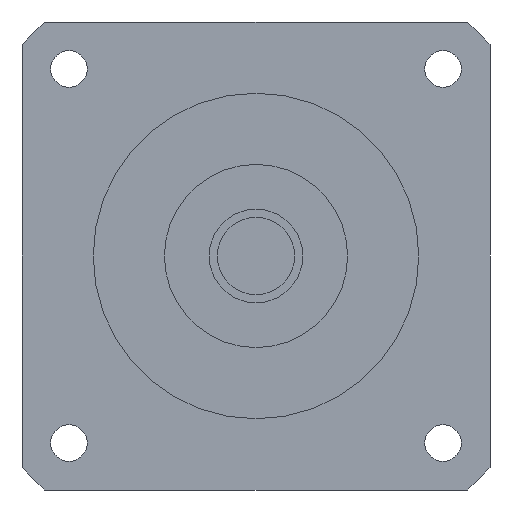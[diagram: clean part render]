
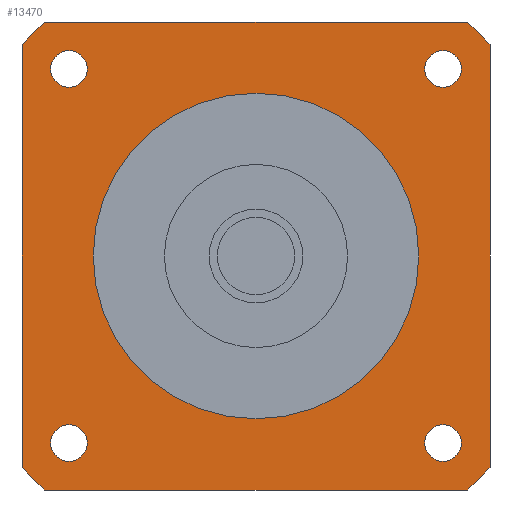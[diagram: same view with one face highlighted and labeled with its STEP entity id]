
A CAD part, left-side view. The second image highlights one B-rep face of the part: STEP entity #13470.
In plain terms, the highlighted planar face has unit normal (-1, 0, 0) as drawn and (0, 0, -1) by its records, which use the part's own axes.
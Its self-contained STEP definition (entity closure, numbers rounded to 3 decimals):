
#8890=CARTESIAN_POINT('',(57.5,-51.962,-43.2));
#8900=VERTEX_POINT('',#8890);
#8930=CARTESIAN_POINT('',(0.,0.,
-43.2));
#8940=DIRECTION('',(0.,0.,-1.));
#8950=DIRECTION('',(-1.,0.,0.));
#8960=AXIS2_PLACEMENT_3D('',#8930,#8940,#8950);
#8970=CIRCLE('',#8960,77.5);
#8980=CARTESIAN_POINT('',(51.962,-57.5,-43.2));
#8990=VERTEX_POINT('',#8980);
#9000=EDGE_CURVE('',#8900,#8990,#8970,.T.);
#9310=CARTESIAN_POINT('',(-51.962,57.5,-43.2));
#9320=VERTEX_POINT('',#9310);
#9480=CARTESIAN_POINT('',(-57.5,51.962,-43.2));
#9490=VERTEX_POINT('',#9480);
#9520=CARTESIAN_POINT('',(0.,0.,
-43.2));
#9530=DIRECTION('',(0.,0.,-1.));
#9540=DIRECTION('',(-1.,0.,0.));
#9550=AXIS2_PLACEMENT_3D('',#9520,#9530,#9540);
#9560=CIRCLE('',#9550,77.5);
#9570=EDGE_CURVE('',#9490,#9320,#9560,.T.);
#12040=CARTESIAN_POINT('',(50.462,-45.962,-43.2));
#12050=VERTEX_POINT('',#12040);
#12080=CARTESIAN_POINT('',(45.962,-45.962,-43.2));
#12090=DIRECTION('',(0.,0.,-1.));
#12100=DIRECTION('',(1.,0.,0.));
#12110=AXIS2_PLACEMENT_3D('',#12080,#12090,#12100);
#12120=CIRCLE('',#12110,4.5);
#12130=CARTESIAN_POINT('',(41.462,-45.962,-43.2));
#12140=VERTEX_POINT('',#12130);
#12150=EDGE_CURVE('',#12140,#12050,#12120,.T.);
#12270=CARTESIAN_POINT('',(0.,0.,
-43.2));
#12280=DIRECTION('',(0.,0.,-1.));
#12290=DIRECTION('',(1.,0.,0.));
#12300=AXIS2_PLACEMENT_3D('',#12270,#12280,#12290);
#12310=PLANE('',#12300);
#12320=CARTESIAN_POINT('',(45.962,45.962,-43.2));
#12330=DIRECTION('',(0.,0.,-1.));
#12340=DIRECTION('',(1.,0.,0.));
#12350=AXIS2_PLACEMENT_3D('',#12320,#12330,#12340);
#12360=CIRCLE('',#12350,4.5);
#12370=CARTESIAN_POINT('',(50.462,45.962,-43.2));
#12380=VERTEX_POINT('',#12370);
#12390=CARTESIAN_POINT('',(41.462,45.962,-43.2));
#12400=VERTEX_POINT('',#12390);
#12410=EDGE_CURVE('',#12380,#12400,#12360,.T.);
#12420=ORIENTED_EDGE('',*,*,#12410,.F.);
#12430=EDGE_CURVE('',#12400,#12380,#12360,.T.);
#12440=ORIENTED_EDGE('',*,*,#12430,.F.);
#12450=EDGE_LOOP('',(#12440,#12420));
#12460=FACE_BOUND('',#12450,.T.);
#12470=CARTESIAN_POINT('',(-45.962,45.962,-43.2));
#12480=DIRECTION('',(0.,0.,-1.));
#12490=DIRECTION('',(1.,0.,0.));
#12500=AXIS2_PLACEMENT_3D('',#12470,#12480,#12490);
#12510=CIRCLE('',#12500,4.5);
#12520=CARTESIAN_POINT('',(-41.462,45.962,-43.2));
#12530=VERTEX_POINT('',#12520);
#12540=CARTESIAN_POINT('',(-50.462,45.962,-43.2));
#12550=VERTEX_POINT('',#12540);
#12560=EDGE_CURVE('',#12530,#12550,#12510,.T.);
#12570=ORIENTED_EDGE('',*,*,#12560,.F.);
#12580=EDGE_CURVE('',#12550,#12530,#12510,.T.);
#12590=ORIENTED_EDGE('',*,*,#12580,.F.);
#12600=EDGE_LOOP('',(#12590,#12570));
#12610=FACE_BOUND('',#12600,.T.);
#12620=CARTESIAN_POINT('',(0.,0.,
-43.2));
#12630=DIRECTION('',(0.,0.,1.));
#12640=DIRECTION('',(1.,0.,0.));
#12650=AXIS2_PLACEMENT_3D('',#12620,#12630,#12640);
#12660=CIRCLE('',#12650,40.);
#12670=CARTESIAN_POINT('',(40.,0.,-43.2));
#12680=VERTEX_POINT('',#12670);
#12690=CARTESIAN_POINT('',(-40.,0.,-43.2));
#12700=VERTEX_POINT('',#12690);
#12710=EDGE_CURVE('',#12680,#12700,#12660,.T.);
#12720=ORIENTED_EDGE('',*,*,#12710,.T.);
#12730=EDGE_CURVE('',#12700,#12680,#12660,.T.);
#12740=ORIENTED_EDGE('',*,*,#12730,.T.);
#12750=EDGE_LOOP('',(#12740,#12720));
#12760=FACE_BOUND('',#12750,.T.);
#12770=CARTESIAN_POINT('',(-45.962,-45.962,-43.2));
#12780=DIRECTION('',(0.,0.,-1.));
#12790=DIRECTION('',(1.,0.,0.));
#12800=AXIS2_PLACEMENT_3D('',#12770,#12780,#12790);
#12810=CIRCLE('',#12800,4.5);
#12820=CARTESIAN_POINT('',(-41.462,-45.962,-43.2));
#12830=VERTEX_POINT('',#12820);
#12840=CARTESIAN_POINT('',(-50.462,-45.962,-43.2));
#12850=VERTEX_POINT('',#12840);
#12860=EDGE_CURVE('',#12830,#12850,#12810,.T.);
#12870=ORIENTED_EDGE('',*,*,#12860,.F.);
#12880=EDGE_CURVE('',#12850,#12830,#12810,.T.);
#12890=ORIENTED_EDGE('',*,*,#12880,.F.);
#12900=EDGE_LOOP('',(#12890,#12870));
#12910=FACE_BOUND('',#12900,.T.);
#12920=EDGE_CURVE('',#12050,#12140,#12120,.T.);
#12930=ORIENTED_EDGE('',*,*,#12920,.F.);
#12940=ORIENTED_EDGE('',*,*,#12150,.F.);
#12950=EDGE_LOOP('',(#12940,#12930));
#12960=FACE_BOUND('',#12950,.T.);
#12970=CARTESIAN_POINT('',(57.5,-57.5,-43.2));
#12980=DIRECTION('',(-1.,0.,0.));
#12990=VECTOR('',#12980,1000.);
#13000=LINE('',#12970,#12990);
#13010=CARTESIAN_POINT('',(-51.962,-57.5,-43.2));
#13020=VERTEX_POINT('',#13010);
#13030=EDGE_CURVE('',#8990,#13020,#13000,.T.);
#13040=ORIENTED_EDGE('',*,*,#13030,.T.);
#13050=ORIENTED_EDGE('',*,*,#9000,.T.);
#13060=CARTESIAN_POINT('',(57.5,57.5,-43.2));
#13070=DIRECTION('',(0.,-1.,0.));
#13080=VECTOR('',#13070,1000.);
#13090=LINE('',#13060,#13080);
#13100=CARTESIAN_POINT('',(57.5,51.962,-43.2));
#13110=VERTEX_POINT('',#13100);
#13120=EDGE_CURVE('',#13110,#8900,#13090,.T.);
#13130=ORIENTED_EDGE('',*,*,#13120,.T.);
#13140=CARTESIAN_POINT('',(0.,0.,
-43.2));
#13150=DIRECTION('',(0.,0.,-1.));
#13160=DIRECTION('',(-1.,0.,0.));
#13170=AXIS2_PLACEMENT_3D('',#13140,#13150,#13160);
#13180=CIRCLE('',#13170,77.5);
#13190=CARTESIAN_POINT('',(51.962,57.5,-43.2));
#13200=VERTEX_POINT('',#13190);
#13210=EDGE_CURVE('',#13200,#13110,#13180,.T.);
#13220=ORIENTED_EDGE('',*,*,#13210,.T.);
#13230=CARTESIAN_POINT('',(-57.5,57.5,-43.2));
#13240=DIRECTION('',(1.,0.,0.));
#13250=VECTOR('',#13240,1000.);
#13260=LINE('',#13230,#13250);
#13270=EDGE_CURVE('',#9320,#13200,#13260,.T.);
#13280=ORIENTED_EDGE('',*,*,#13270,.T.);
#13290=ORIENTED_EDGE('',*,*,#9570,.T.);
#13300=CARTESIAN_POINT('',(-57.5,-57.5,-43.2));
#13310=DIRECTION('',(0.,1.,0.));
#13320=VECTOR('',#13310,1000.);
#13330=LINE('',#13300,#13320);
#13340=CARTESIAN_POINT('',(-57.5,-51.962,-43.2));
#13350=VERTEX_POINT('',#13340);
#13360=EDGE_CURVE('',#13350,#9490,#13330,.T.);
#13370=ORIENTED_EDGE('',*,*,#13360,.T.);
#13380=CARTESIAN_POINT('',(0.,0.,
-43.2));
#13390=DIRECTION('',(0.,0.,-1.));
#13400=DIRECTION('',(-1.,0.,0.));
#13410=AXIS2_PLACEMENT_3D('',#13380,#13390,#13400);
#13420=CIRCLE('',#13410,77.5);
#13430=EDGE_CURVE('',#13020,#13350,#13420,.T.);
#13440=ORIENTED_EDGE('',*,*,#13430,.T.);
#13450=EDGE_LOOP('',(#13440,#13370,#13290,#13280,#13220,#13130,#13050,
#13040));
#13460=FACE_OUTER_BOUND('',#13450,.T.);
#13470=ADVANCED_FACE('',(#12460,#12610,#12760,#12910,#12960,#13460),
#12310,.T.);
